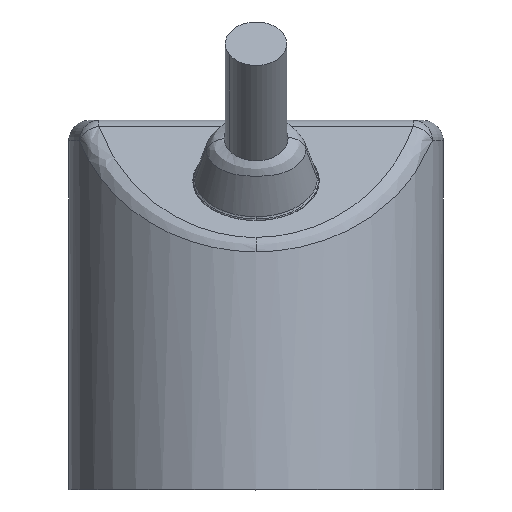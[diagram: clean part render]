
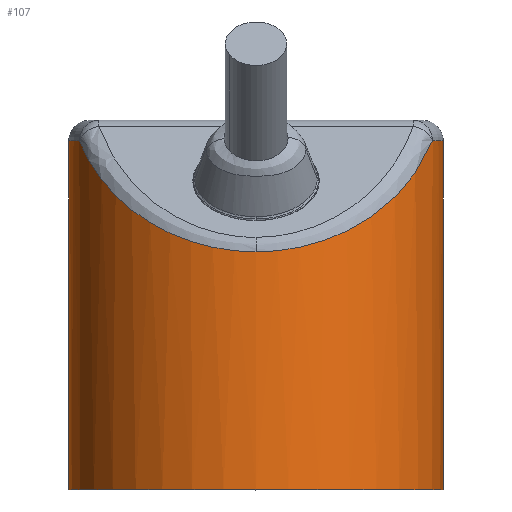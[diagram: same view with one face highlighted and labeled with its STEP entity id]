
A CAD part, top view. The second image highlights one B-rep face of the part: STEP entity #107.
In plain terms, the highlighted cylindrical face has radius 18.25 mm (diameter 36.5 mm), a partial arc.
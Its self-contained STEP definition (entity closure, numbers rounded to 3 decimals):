
#41 = CIRCLE ( 'NONE', #1039, 18.25 ) ;
#53 = LINE ( 'NONE', #1153, #3770 ) ;
#107 = ADVANCED_FACE ( 'NONE', ( #961 ), #2716, .T. ) ;
#173 = VERTEX_POINT ( 'NONE', #2517 ) ;
#188 = CARTESIAN_POINT ( 'NONE',  ( 30.15, -2., 18.718 ) ) ;
#232 = AXIS2_PLACEMENT_3D ( 'NONE', #2329, #1248, #2693 ) ;
#234 = CARTESIAN_POINT ( 'NONE',  ( 33.85, -8.728, 32.34 ) ) ;
#279 = DIRECTION ( 'NONE',  ( 1., 0., 0. ) ) ;
#284 = EDGE_CURVE ( 'NONE', #4218, #1642, #41, .T. ) ;
#368 = AXIS2_PLACEMENT_3D ( 'NONE', #2673, #4416, #3383 ) ;
#394 = CARTESIAN_POINT ( 'NONE',  ( 65.612, -2., 24.784 ) ) ;
#438 = CARTESIAN_POINT ( 'NONE',  ( 66.65, -2., 18.718 ) ) ;
#449 = VERTEX_POINT ( 'NONE', #438 ) ;
#448 = CARTESIAN_POINT ( 'NONE',  ( 48.4, -12.849, 36.968 ) ) ;
#487 = CARTESIAN_POINT ( 'NONE',  ( 66.65, -36., 18.718 ) ) ;
#689 = ORIENTED_EDGE ( 'NONE', *, *, #2879, .T. ) ;
#737 = CARTESIAN_POINT ( 'NONE',  ( 48.4, -2., 18.718 ) ) ;
#831 = EDGE_CURVE ( 'NONE', #449, #2261, #53, .T. ) ;
#852 = CARTESIAN_POINT ( 'NONE',  ( 48.4, -12.849, 36.968 ) ) ;
#869 = CARTESIAN_POINT ( 'NONE',  ( 30.15, -36., 18.718 ) ) ;
#961 = FACE_OUTER_BOUND ( 'NONE', #2129, .T. ) ;
#1039 = AXIS2_PLACEMENT_3D ( 'NONE', #737, #2176, #4354 ) ;
#1153 = CARTESIAN_POINT ( 'NONE',  ( 66.65, 0., 18.718 ) ) ;
#1189 = CARTESIAN_POINT ( 'NONE',  ( 62.95, -8.728, 32.34 ) ) ;
#1248 = DIRECTION ( 'NONE',  ( 0., -1., 0. ) ) ;
#1328 = ORIENTED_EDGE ( 'NONE', *, *, #3298, .T. ) ;
#1423 = CIRCLE ( 'NONE', #3094, 18.25 ) ;
#1452 = EDGE_CURVE ( 'NONE', #3396, #173, #2418, .T. ) ;
#1470 = CARTESIAN_POINT ( 'NONE',  ( 56.411, -12.849, 36.968 ) ) ;
#1642 = VERTEX_POINT ( 'NONE', #188 ) ;
#1708 = CARTESIAN_POINT ( 'NONE',  ( 31.187, -2., 24.784 ) ) ;
#1718 = EDGE_CURVE ( 'NONE', #2556, #2261, #1423, .T. ) ;
#1732 = ORIENTED_EDGE ( 'NONE', *, *, #1452, .T. ) ;
#2129 = EDGE_LOOP ( 'NONE', ( #2630, #2473, #1732, #1328, #4475, #689, #3803 ) ) ;
#2155 = DIRECTION ( 'NONE',  ( 0., -1., 0. ) ) ;
#2176 = DIRECTION ( 'NONE',  ( 0., -1., 0. ) ) ;
#2261 = VERTEX_POINT ( 'NONE', #487 ) ;
#2308 = EDGE_CURVE ( 'NONE', #449, #3396, #4529, .T. ) ;
#2329 = CARTESIAN_POINT ( 'NONE',  ( 48.4, 0., 18.718 ) ) ;
#2390 = VECTOR ( 'NONE', #2560, 1000. ) ;
#2418 =( BOUNDED_CURVE ( )  B_SPLINE_CURVE ( 3, ( #394, #1189, #1470, #448 ),
 .UNSPECIFIED., .F., .F. ) 
 B_SPLINE_CURVE_WITH_KNOTS ( ( 4, 4 ),
 ( 5.051, 6.283 ),
 .UNSPECIFIED. ) 
 CURVE ( )  GEOMETRIC_REPRESENTATION_ITEM ( )  RATIONAL_B_SPLINE_CURVE ( ( 1., 0.877, 0.877, 1. ) ) 
 REPRESENTATION_ITEM ( '' )  );
#2473 = ORIENTED_EDGE ( 'NONE', *, *, #2308, .T. ) ;
#2517 = CARTESIAN_POINT ( 'NONE',  ( 48.4, -12.849, 36.968 ) ) ;
#2556 = VERTEX_POINT ( 'NONE', #869 ) ;
#2560 = DIRECTION ( 'NONE',  ( 0., -1., 0. ) ) ;
#2610 = CARTESIAN_POINT ( 'NONE',  ( 30.15, 0., 18.718 ) ) ;
#2630 = ORIENTED_EDGE ( 'NONE', *, *, #831, .F. ) ;
#2673 = CARTESIAN_POINT ( 'NONE',  ( 48.4, -2., 18.718 ) ) ;
#2693 = DIRECTION ( 'NONE',  ( -1., 0., 0. ) ) ;
#2716 = CYLINDRICAL_SURFACE ( 'NONE', #232, 18.25 ) ;
#2803 = CARTESIAN_POINT ( 'NONE',  ( 48.4, -36., 18.718 ) ) ;
#2879 = EDGE_CURVE ( 'NONE', #1642, #2556, #3320, .T. ) ;
#2928 =( BOUNDED_CURVE ( )  B_SPLINE_CURVE ( 3, ( #852, #3058, #234, #4192 ),
 .UNSPECIFIED., .F., .T. ) 
 B_SPLINE_CURVE_WITH_KNOTS ( ( 4, 4 ),
 ( 0., 1.232 ),
 .UNSPECIFIED. ) 
 CURVE ( )  GEOMETRIC_REPRESENTATION_ITEM ( )  RATIONAL_B_SPLINE_CURVE ( ( 1., 0.877, 0.877, 1. ) ) 
 REPRESENTATION_ITEM ( '' )  );
#3058 = CARTESIAN_POINT ( 'NONE',  ( 40.388, -12.849, 36.968 ) ) ;
#3094 = AXIS2_PLACEMENT_3D ( 'NONE', #2803, #3911, #279 ) ;
#3298 = EDGE_CURVE ( 'NONE', #173, #4218, #2928, .T. ) ;
#3320 = LINE ( 'NONE', #2610, #2390 ) ;
#3325 = CARTESIAN_POINT ( 'NONE',  ( 65.612, -2., 24.784 ) ) ;
#3383 = DIRECTION ( 'NONE',  ( 1., 0., 0. ) ) ;
#3396 = VERTEX_POINT ( 'NONE', #3325 ) ;
#3770 = VECTOR ( 'NONE', #2155, 1000. ) ;
#3803 = ORIENTED_EDGE ( 'NONE', *, *, #1718, .T. ) ;
#3911 = DIRECTION ( 'NONE',  ( 0., 1., 0. ) ) ;
#4192 = CARTESIAN_POINT ( 'NONE',  ( 31.187, -2., 24.784 ) ) ;
#4218 = VERTEX_POINT ( 'NONE', #1708 ) ;
#4354 = DIRECTION ( 'NONE',  ( 1., 0., 0. ) ) ;
#4416 = DIRECTION ( 'NONE',  ( 0., -1., 0. ) ) ;
#4475 = ORIENTED_EDGE ( 'NONE', *, *, #284, .T. ) ;
#4529 = CIRCLE ( 'NONE', #368, 18.25 ) ;
